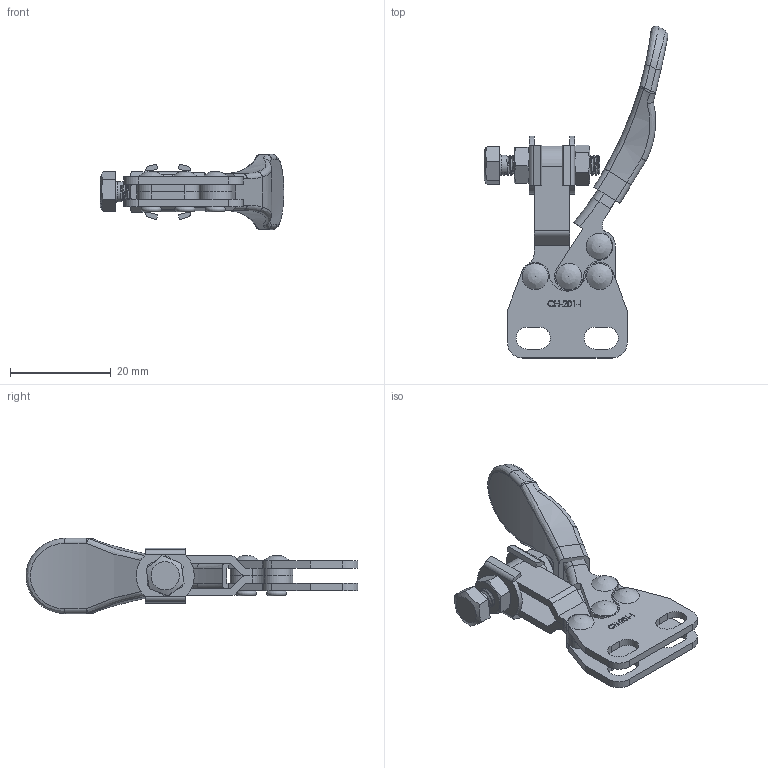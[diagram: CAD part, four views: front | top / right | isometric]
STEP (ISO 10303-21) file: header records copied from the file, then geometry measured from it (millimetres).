
FILE_DESCRIPTION(/* description */ ('STEP AP203'),/* implementation_level */ '2;1');
FILE_NAME(/* name */ 'E:\STRONA\Horizontal toggle clamp\CH-201-I\CH-201-I_OTWARTY.stp',/* time_stamp */ '2019-01-15T13:07:42+01:00',/* author */ ('Admin'),/* organization */ ('Î¢ÈíÖÐ¹ú'),/* preprocessor_version */ 'ST-DEVELOPER v17.2',/* originating_system */ 'Autodesk Inventor 2019',/* authorisation */ '');
FILE_SCHEMA (('AUTOMOTIVE_DESIGN { 1 0 10303 214 3 1 1 }'));
Products named in the file (11): CH-201-I_OTWARTY; CH-201-I-01 FLANGED BASE; CH-201-02 U-BAR; CH-201-A-04; CH-201-03 HANDLE; CH-201-A-05; CH-201-A-03; CH-SA-042007 SPINDLE SUPPLIED; M4 Nut; CH-201-A-06; CH-FW-080
Assembly tree (16 placements, depth 3):
  CH-201-I_OTWARTY
    CH-201-A-06  x4
    CH-201-A-04  x2
    CH-201-I-01 FLANGED BASE
    CH-FW-080  x2
    CH-201-02 U-BAR
    CH-201-03 HANDLE
      CH-201-A-05
      CH-201-A-03
    CH-SA-042007 SPINDLE SUPPLIED
    M4 Nut  x2
Bounding box: 36.53 x 66.03 x 15 mm (x, y, z)
Volume: 4538.6 mm3; surface area: 8587.3 mm2
Topology: 17 solids, 17 shells, 635 faces, 1739 edges, 1161 vertices
Faces by surface type: plane 273, bspline 180, cylinder 143, torus 19, cone 14, sphere 6
Full cylindrical faces by diameter (mm): 0.514 x1, 0.586 x1, 2.4 x4, 3 x20, 3.2 x4, 4 x26, 4.3 x2
Entity records: 41248 total; most frequent: CARTESIAN_POINT 27377, ORIENTED_EDGE 3136, DIRECTION 2230, EDGE_CURVE 1568, VERTEX_POINT 1048, LINE 836, VECTOR 836, AXIS2_PLACEMENT_3D 697
